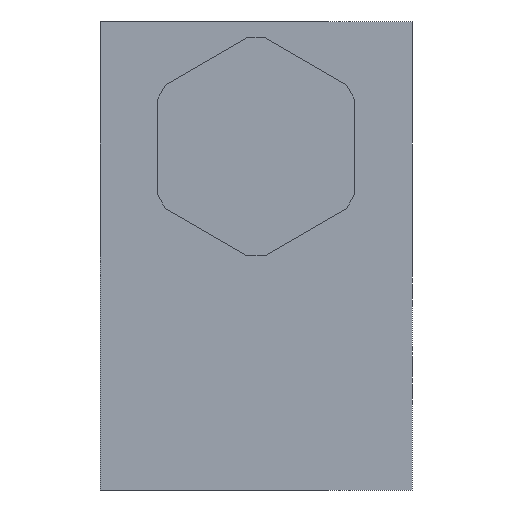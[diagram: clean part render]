
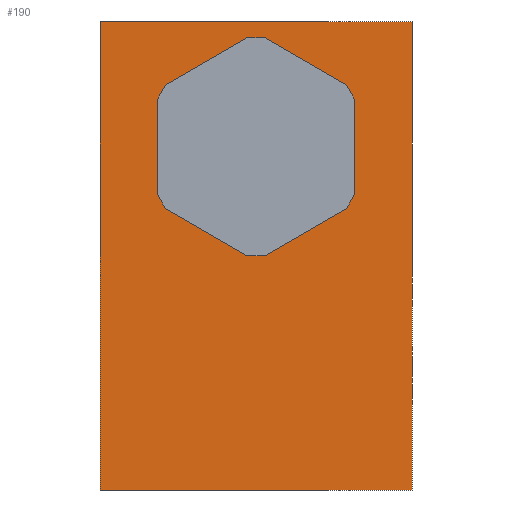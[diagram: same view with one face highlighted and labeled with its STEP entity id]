
A CAD part, left-side view. The second image highlights one B-rep face of the part: STEP entity #190.
In plain terms, the highlighted planar face has unit normal (-1, 0, 0).
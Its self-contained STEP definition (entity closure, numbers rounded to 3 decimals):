
#190=ADVANCED_FACE('',(#449,#450),#265,.T.);
#265=PLANE('',#1271);
#309=LINE('',#1684,#378);
#311=LINE('',#1692,#380);
#313=LINE('',#1698,#382);
#314=LINE('',#1700,#383);
#378=VECTOR('',#1380,1.);
#380=VECTOR('',#1388,1.);
#382=VECTOR('',#1394,1.);
#383=VECTOR('',#1395,1.);
#449=FACE_BOUND('',#499,.T.);
#450=FACE_BOUND('',#500,.T.);
#499=EDGE_LOOP('',(#651));
#500=EDGE_LOOP('',(#652,#653,#654,#655));
#599=CIRCLE('',#1270,6.575);
#651=ORIENTED_EDGE('',*,*,#1073,.T.);
#652=ORIENTED_EDGE('',*,*,#1071,.T.);
#653=ORIENTED_EDGE('',*,*,#1067,.T.);
#654=ORIENTED_EDGE('',*,*,#1074,.F.);
#655=ORIENTED_EDGE('',*,*,#1075,.T.);
#954=VERTEX_POINT('',#1679);
#956=VERTEX_POINT('',#1683);
#960=VERTEX_POINT('',#1693);
#961=VERTEX_POINT('',#1697);
#962=VERTEX_POINT('',#1699);
#1067=EDGE_CURVE('',#954,#956,#309,.T.);
#1071=EDGE_CURVE('',#960,#954,#311,.T.);
#1073=EDGE_CURVE('',#961,#961,#599,.T.);
#1074=EDGE_CURVE('',#962,#956,#313,.T.);
#1075=EDGE_CURVE('',#962,#960,#314,.T.);
#1270=AXIS2_PLACEMENT_3D('',#1696,#1392,#1393);
#1271=AXIS2_PLACEMENT_3D('',#1701,#1396,#1397);
#1380=DIRECTION('',(0.,1.,0.));
#1388=DIRECTION('',(0.,0.,1.));
#1392=DIRECTION('',(1.,0.,0.));
#1393=DIRECTION('',(0.,0.,-1.));
#1394=DIRECTION('',(0.,0.,1.));
#1395=DIRECTION('',(0.,-1.,0.));
#1396=DIRECTION('',(-1.,0.,0.));
#1397=DIRECTION('',(0.,0.,-1.));
#1679=CARTESIAN_POINT('',(-167.258,29.202,45.));
#1683=CARTESIAN_POINT('',(-167.258,59.202,45.));
#1684=CARTESIAN_POINT('',(-167.258,44.202,45.));
#1692=CARTESIAN_POINT('',(-167.258,29.202,0.));
#1693=CARTESIAN_POINT('',(-167.258,29.202,0.));
#1696=CARTESIAN_POINT('',(-167.258,44.202,33.));
#1697=CARTESIAN_POINT('',(-167.258,44.202,26.425));
#1698=CARTESIAN_POINT('',(-167.258,59.202,0.));
#1699=CARTESIAN_POINT('',(-167.258,59.202,0.));
#1700=CARTESIAN_POINT('',(-167.258,44.202,0.));
#1701=CARTESIAN_POINT('',(-167.258,44.202,0.));
